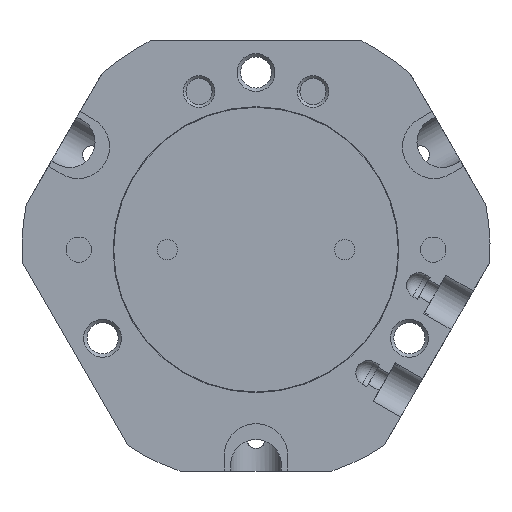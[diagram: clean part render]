
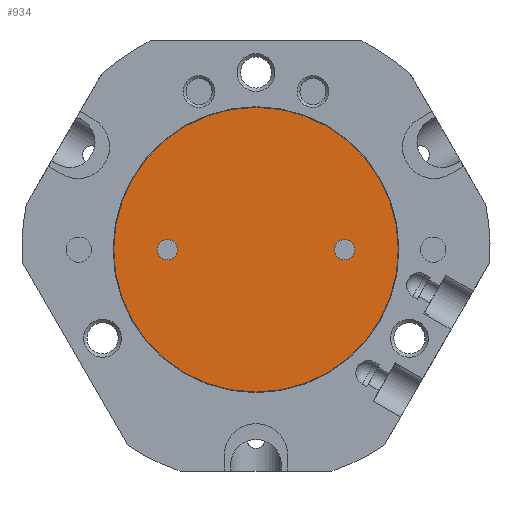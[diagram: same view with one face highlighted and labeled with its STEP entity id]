
A CAD part, front view. The second image highlights one B-rep face of the part: STEP entity #934.
In plain terms, the highlighted planar face has unit normal (0, -1, 0).
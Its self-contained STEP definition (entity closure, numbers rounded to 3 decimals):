
#934 = ADVANCED_FACE( '', ( #1918, #1919, #1920 ), #1921, .F. );
#1918 = FACE_BOUND( '', #2886, .T. );
#1919 = FACE_OUTER_BOUND( '', #2887, .T. );
#1920 = FACE_BOUND( '', #2888, .T. );
#1921 = PLANE( '', #2889 );
#2886 = EDGE_LOOP( '', ( #5366 ) );
#2887 = EDGE_LOOP( '', ( #5367 ) );
#2888 = EDGE_LOOP( '', ( #5368 ) );
#2889 = AXIS2_PLACEMENT_3D( '', #5369, #5370, #5371 );
#5366 = ORIENTED_EDGE( '', *, *, #5947, .F. );
#5367 = ORIENTED_EDGE( '', *, *, #6432, .F. );
#5368 = ORIENTED_EDGE( '', *, *, #5817, .F. );
#5369 = CARTESIAN_POINT( '', ( 0., 0., 0. ) );
#5370 = DIRECTION( '', ( 0., 1., 0. ) );
#5371 = DIRECTION( '', ( 0., 0., 1. ) );
#5817 = EDGE_CURVE( '', #7046, #7046, #7047, .T. );
#5947 = EDGE_CURVE( '', #7261, #7261, #7262, .T. );
#6432 = EDGE_CURVE( '', #7904, #7904, #7905, .T. );
#7046 = VERTEX_POINT( '', #8786 );
#7047 = CIRCLE( '', #8787, 1.6 );
#7261 = VERTEX_POINT( '', #9071 );
#7262 = CIRCLE( '', #9072, 1.6 );
#7904 = VERTEX_POINT( '', #10026 );
#7905 = CIRCLE( '', #10027, 22.5 );
#8786 = CARTESIAN_POINT( '', ( -14., 0., -1.6 ) );
#8787 = AXIS2_PLACEMENT_3D( '', #10468, #10469, #10470 );
#9071 = CARTESIAN_POINT( '', ( 14., 0., -1.6 ) );
#9072 = AXIS2_PLACEMENT_3D( '', #10647, #10648, #10649 );
#10026 = CARTESIAN_POINT( '', ( 22.5, 0., 0. ) );
#10027 = AXIS2_PLACEMENT_3D( '', #11097, #11098, #11099 );
#10468 = CARTESIAN_POINT( '', ( -14., 0., 0. ) );
#10469 = DIRECTION( '', ( 0., -1., 0. ) );
#10470 = DIRECTION( '', ( 0., 0., -1. ) );
#10647 = CARTESIAN_POINT( '', ( 14., 0., 0. ) );
#10648 = DIRECTION( '', ( 0., -1., 0. ) );
#10649 = DIRECTION( '', ( 0., 0., -1. ) );
#11097 = CARTESIAN_POINT( '', ( 0., 0., 0. ) );
#11098 = DIRECTION( '', ( 0., 1., 0. ) );
#11099 = DIRECTION( '', ( 1., 0., 0. ) );
